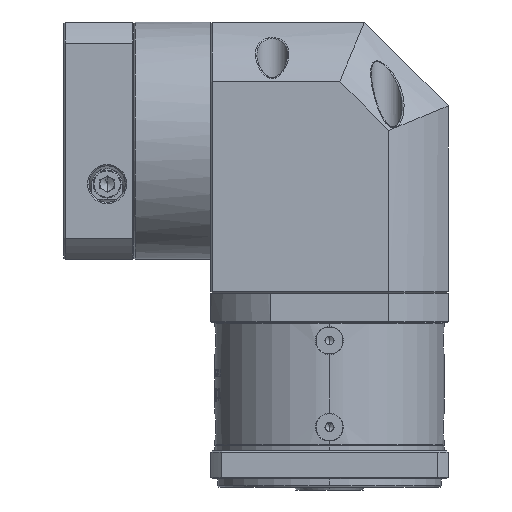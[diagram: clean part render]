
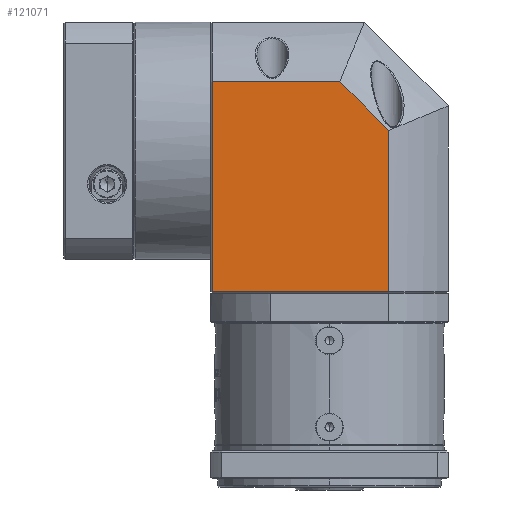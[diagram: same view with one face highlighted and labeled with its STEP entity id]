
A CAD part, left-side view. The second image highlights one B-rep face of the part: STEP entity #121071.
In plain terms, the highlighted planar face has unit normal (-1, 0, 0).
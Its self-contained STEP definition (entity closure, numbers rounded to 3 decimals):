
#58 = CARTESIAN_POINT ( 'NONE',  ( -15.33, 115.197, 97.815 ) ) ;
#2111 = VECTOR ( 'NONE', #54096, 1000. ) ;
#7418 = VECTOR ( 'NONE', #173411, 1000. ) ;
#7978 = FACE_OUTER_BOUND ( 'NONE', #47182, .T. ) ;
#9040 = ORIENTED_EDGE ( 'NONE', *, *, #23557, .F. ) ;
#9549 = EDGE_CURVE ( 'NONE', #32500, #14352, #86457, .T. ) ;
#13607 = DIRECTION ( 'NONE',  ( 0., 0., 1. ) ) ;
#14352 = VERTEX_POINT ( 'NONE', #126842 ) ;
#20117 = CARTESIAN_POINT ( 'NONE',  ( -15.33, 115.697, 1.315 ) ) ;
#20481 = CARTESIAN_POINT ( 'NONE',  ( -15.33, 51.984, 58.998 ) ) ;
#21770 = EDGE_CURVE ( 'NONE', #32500, #75750, #167369, .T. ) ;
#22427 = CARTESIAN_POINT ( 'NONE',  ( -15.33, 115.197, 1.315 ) ) ;
#23557 = EDGE_CURVE ( 'NONE', #38403, #42165, #109245, .T. ) ;
#28367 = VECTOR ( 'NONE', #13607, 1000. ) ;
#31702 = EDGE_CURVE ( 'NONE', #42165, #14352, #110543, .T. ) ;
#32500 = VERTEX_POINT ( 'NONE', #22427 ) ;
#38403 = VERTEX_POINT ( 'NONE', #164536 ) ;
#42165 = VERTEX_POINT ( 'NONE', #20481 ) ;
#47182 = EDGE_LOOP ( 'NONE', ( #63999, #114434, #9040, #146538, #99378 ) ) ;
#50646 = VECTOR ( 'NONE', #127774, 1000. ) ;
#54096 = DIRECTION ( 'NONE',  ( 0., -1., 0. ) ) ;
#63999 = ORIENTED_EDGE ( 'NONE', *, *, #9549, .T. ) ;
#68591 = DIRECTION ( 'NONE',  ( 1., 0., 0. ) ) ;
#75521 = DIRECTION ( 'NONE',  ( 0., -0.707, -0.707 ) ) ;
#75750 = VERTEX_POINT ( 'NONE', #131591 ) ;
#77245 = EDGE_CURVE ( 'NONE', #75750, #38403, #141041, .T. ) ;
#80971 = CARTESIAN_POINT ( 'NONE',  ( -15.33, 51.984, 101.315 ) ) ;
#86457 = LINE ( 'NONE', #20117, #50646 ) ;
#99378 = ORIENTED_EDGE ( 'NONE', *, *, #21770, .F. ) ;
#109245 = LINE ( 'NONE', #170917, #145079 ) ;
#110543 = LINE ( 'NONE', #80971, #7418 ) ;
#114434 = ORIENTED_EDGE ( 'NONE', *, *, #31702, .F. ) ;
#121071 = ADVANCED_FACE ( 'NONE', ( #7978 ), #162190, .F. ) ;
#126842 = CARTESIAN_POINT ( 'NONE',  ( -15.33, 51.984, 1.315 ) ) ;
#127774 = DIRECTION ( 'NONE',  ( 0., -1., 0. ) ) ;
#131591 = CARTESIAN_POINT ( 'NONE',  ( -15.33, 115.197, 76.528 ) ) ;
#141041 = LINE ( 'NONE', #148377, #2111 ) ;
#145079 = VECTOR ( 'NONE', #75521, 1000. ) ;
#146538 = ORIENTED_EDGE ( 'NONE', *, *, #77245, .F. ) ;
#148377 = CARTESIAN_POINT ( 'NONE',  ( -15.33, 115.697, 76.528 ) ) ;
#149301 = CARTESIAN_POINT ( 'NONE',  ( -15.33, 115.697, 97.815 ) ) ;
#162190 = PLANE ( 'NONE',  #165956 ) ;
#162780 = DIRECTION ( 'NONE',  ( 0., 1., 0. ) ) ;
#164536 = CARTESIAN_POINT ( 'NONE',  ( -15.33, 69.514, 76.528 ) ) ;
#165956 = AXIS2_PLACEMENT_3D ( 'NONE', #149301, #68591, #162780 ) ;
#167369 = LINE ( 'NONE', #58, #28367 ) ;
#170917 = CARTESIAN_POINT ( 'NONE',  ( -15.33, 69.514, 76.528 ) ) ;
#173411 = DIRECTION ( 'NONE',  ( 0., 0., -1. ) ) ;
